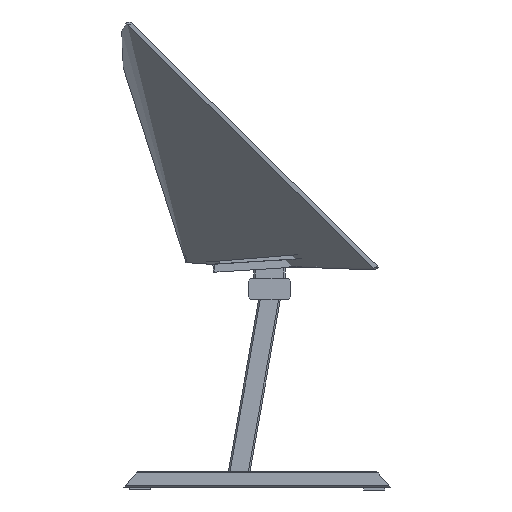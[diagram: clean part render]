
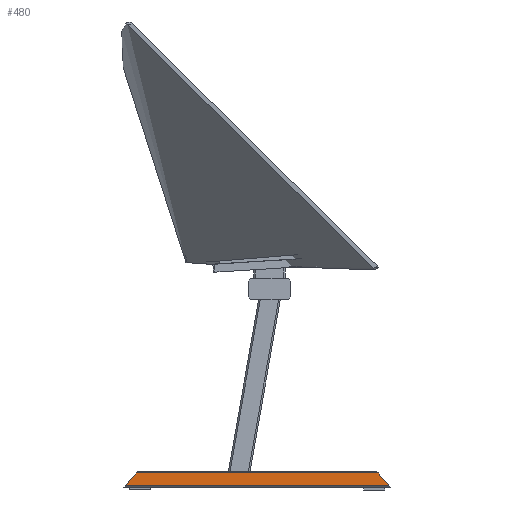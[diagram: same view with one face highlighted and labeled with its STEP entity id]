
A CAD part, left-side view. The second image highlights one B-rep face of the part: STEP entity #480.
In plain terms, the highlighted planar face has unit normal (-1, 0, 0).
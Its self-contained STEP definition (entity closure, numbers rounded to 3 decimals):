
#480=ADVANCED_FACE('',(#886),#6216,.T.);
#886=FACE_OUTER_BOUND('',#1300,.T.);
#1300=EDGE_LOOP('',(#2879,#2880,#2881,#2882));
#2879=ORIENTED_EDGE('',*,*,#4058,.F.);
#2880=ORIENTED_EDGE('',*,*,#4074,.F.);
#2881=ORIENTED_EDGE('',*,*,#4053,.F.);
#2882=ORIENTED_EDGE('',*,*,#4073,.F.);
#4053=EDGE_CURVE('',#5890,#5889,#4941,.T.);
#4058=EDGE_CURVE('',#5900,#5899,#4946,.T.);
#4073=EDGE_CURVE('',#5899,#5890,#4961,.T.);
#4074=EDGE_CURVE('',#5889,#5900,#4962,.T.);
#4941=B_SPLINE_CURVE_WITH_KNOTS('',1,(#22286,#22287),.UNSPECIFIED.,.F.,
 .F.,(2,2),(-51003.527,-50972.197),.UNSPECIFIED.);
#4946=B_SPLINE_CURVE_WITH_KNOTS('',1,(#22296,#22297),.UNSPECIFIED.,.F.,
 .F.,(2,2),(-50514.71,-50483.381),.UNSPECIFIED.);
#4961=B_SPLINE_CURVE_WITH_KNOTS('',1,(#22470,#22471),.UNSPECIFIED.,.F.,
 .F.,(2,2),(2.517,497.483),.UNSPECIFIED.);
#4962=B_SPLINE_CURVE_WITH_KNOTS('',1,(#22472,#22473),.UNSPECIFIED.,.F.,
 .F.,(2,2),(-2.517,452.171),.UNSPECIFIED.);
#5889=VERTEX_POINT('',#22270);
#5890=VERTEX_POINT('',#22271);
#5899=VERTEX_POINT('',#22280);
#5900=VERTEX_POINT('',#22281);
#6216=PLANE('',#6702);
#6702=AXIS2_PLACEMENT_3D('',#22239,#6957,$);
#6957=DIRECTION('',(-1.,0.,0.));
#22239=CARTESIAN_POINT('',(-975.,-322.5,1.25));
#22270=CARTESIAN_POINT('',(-975.,217.344,32.));
#22271=CARTESIAN_POINT('',(-975.,237.483,8.));
#22280=CARTESIAN_POINT('',(-975.,-257.483,8.));
#22281=CARTESIAN_POINT('',(-975.,-237.344,32.));
#22286=CARTESIAN_POINT('',(-975.,237.483,8.));
#22287=CARTESIAN_POINT('',(-975.,217.344,32.));
#22296=CARTESIAN_POINT('',(-975.,-237.344,32.));
#22297=CARTESIAN_POINT('',(-975.,-257.483,8.));
#22470=CARTESIAN_POINT('',(-975.,-257.483,8.));
#22471=CARTESIAN_POINT('',(-975.,237.483,8.));
#22472=CARTESIAN_POINT('',(-975.,217.344,32.));
#22473=CARTESIAN_POINT('',(-975.,-237.344,32.));
